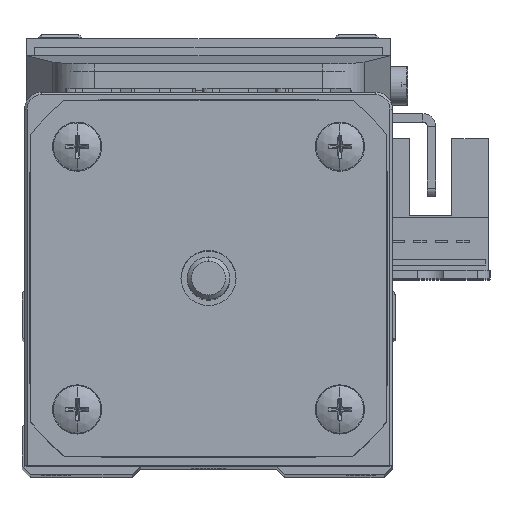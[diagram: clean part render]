
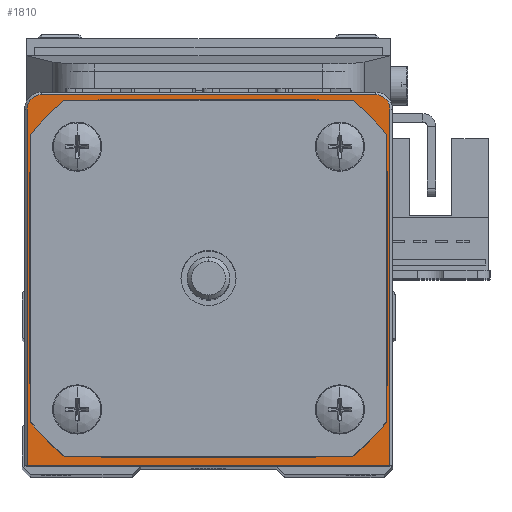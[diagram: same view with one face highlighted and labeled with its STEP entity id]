
A CAD part, top view. The second image highlights one B-rep face of the part: STEP entity #1810.
In plain terms, the highlighted planar face has unit normal (0, 0, 1).
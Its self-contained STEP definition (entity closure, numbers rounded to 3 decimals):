
#481 = EDGE_CURVE ( 'NONE', #44099, #24421, #55169, .T. ) ;
#1602 = LINE ( 'NONE', #24798, #35063 ) ;
#1810 = ADVANCED_FACE ( 'NONE', ( #56805, #4753 ), #27922, .T. ) ;
#4529 = EDGE_CURVE ( 'NONE', #18620, #44576, #59498, .T. ) ;
#4753 = FACE_BOUND ( 'NONE', #63405, .T. ) ;
#5573 = EDGE_LOOP ( 'NONE', ( #16855, #52518, #60729, #59995, #59426, #49771 ) ) ;
#6468 = CARTESIAN_POINT ( 'NONE',  ( -21.4, -22., 26.5 ) ) ;
#6722 = DIRECTION ( 'NONE',  ( 0., 0., 1. ) ) ;
#7415 = VECTOR ( 'NONE', #30609, 1000. ) ;
#7447 = CARTESIAN_POINT ( 'NONE',  ( 21.4, 20., 26.5 ) ) ;
#8779 = CARTESIAN_POINT ( 'NONE',  ( 10., 0., 26.5 ) ) ;
#10159 = CIRCLE ( 'NONE', #62328, 1.7 ) ;
#11736 = CARTESIAN_POINT ( 'NONE',  ( 21.4, 20., 26.5 ) ) ;
#11767 = VERTEX_POINT ( 'NONE', #26011 ) ;
#12199 = DIRECTION ( 'NONE',  ( 1., 0., 0. ) ) ;
#13867 = DIRECTION ( 'NONE',  ( 0., -1., 0. ) ) ;
#14108 = CARTESIAN_POINT ( 'NONE',  ( -19.7, 21.7, 26.5 ) ) ;
#15977 = VERTEX_POINT ( 'NONE', #48340 ) ;
#16818 = DIRECTION ( 'NONE',  ( 1., 0., 0. ) ) ;
#16855 = ORIENTED_EDGE ( 'NONE', *, *, #29542, .T. ) ;
#16971 = ORIENTED_EDGE ( 'NONE', *, *, #51911, .F. ) ;
#18620 = VERTEX_POINT ( 'NONE', #30964 ) ;
#19639 = EDGE_CURVE ( 'NONE', #44576, #15977, #61272, .T. ) ;
#21521 = CARTESIAN_POINT ( 'NONE',  ( -21.7, -22., 26.5 ) ) ;
#22213 = DIRECTION ( 'NONE',  ( 1., 0., 0. ) ) ;
#22397 = AXIS2_PLACEMENT_3D ( 'NONE', #44658, #67813, #16818 ) ;
#24421 = VERTEX_POINT ( 'NONE', #8779 ) ;
#24798 = CARTESIAN_POINT ( 'NONE',  ( -19.7, 21.7, 26.5 ) ) ;
#25929 = VECTOR ( 'NONE', #13867, 1000. ) ;
#26011 = CARTESIAN_POINT ( 'NONE',  ( -21.4, 20., 26.5 ) ) ;
#26195 = CARTESIAN_POINT ( 'NONE',  ( 19.7, 20., 26.5 ) ) ;
#27922 = PLANE ( 'NONE',  #56557 ) ;
#28502 = AXIS2_PLACEMENT_3D ( 'NONE', #26195, #49378, #72557 ) ;
#29542 = EDGE_CURVE ( 'NONE', #48856, #18620, #73565, .T. ) ;
#29886 = DIRECTION ( 'NONE',  ( 1., 0., 0. ) ) ;
#30609 = DIRECTION ( 'NONE',  ( 0., 1., 0. ) ) ;
#30964 = CARTESIAN_POINT ( 'NONE',  ( 21.4, -22., 26.5 ) ) ;
#32505 = CIRCLE ( 'NONE', #74966, 10. ) ;
#32507 = VERTEX_POINT ( 'NONE', #14108 ) ;
#35063 = VECTOR ( 'NONE', #47987, 1000. ) ;
#41098 = CARTESIAN_POINT ( 'NONE',  ( 0., 0., 26.5 ) ) ;
#42761 = LINE ( 'NONE', #65909, #25929 ) ;
#44099 = VERTEX_POINT ( 'NONE', #55840 ) ;
#44576 = VERTEX_POINT ( 'NONE', #11736 ) ;
#44658 = CARTESIAN_POINT ( 'NONE',  ( 0., 0., 26.5 ) ) ;
#44710 = DIRECTION ( 'NONE',  ( 1., 0., 0. ) ) ;
#47648 = EDGE_CURVE ( 'NONE', #32507, #11767, #10159, .T. ) ;
#47987 = DIRECTION ( 'NONE',  ( -1., 0., 0. ) ) ;
#48340 = CARTESIAN_POINT ( 'NONE',  ( 19.7, 21.7, 26.5 ) ) ;
#48856 = VERTEX_POINT ( 'NONE', #6468 ) ;
#49378 = DIRECTION ( 'NONE',  ( 0., 0., 1. ) ) ;
#49771 = ORIENTED_EDGE ( 'NONE', *, *, #63749, .T. ) ;
#51098 = CARTESIAN_POINT ( 'NONE',  ( 0., 0., 26.5 ) ) ;
#51506 = EDGE_CURVE ( 'NONE', #15977, #32507, #1602, .T. ) ;
#51911 = EDGE_CURVE ( 'NONE', #24421, #44099, #32505, .T. ) ;
#52518 = ORIENTED_EDGE ( 'NONE', *, *, #4529, .T. ) ;
#55169 = CIRCLE ( 'NONE', #22397, 10. ) ;
#55840 = CARTESIAN_POINT ( 'NONE',  ( -10., 0., 26.5 ) ) ;
#56557 = AXIS2_PLACEMENT_3D ( 'NONE', #51098, #74271, #22213 ) ;
#56805 = FACE_OUTER_BOUND ( 'NONE', #5573, .T. ) ;
#58764 = CARTESIAN_POINT ( 'NONE',  ( -19.7, 20., 26.5 ) ) ;
#59426 = ORIENTED_EDGE ( 'NONE', *, *, #47648, .T. ) ;
#59498 = LINE ( 'NONE', #7447, #7415 ) ;
#59995 = ORIENTED_EDGE ( 'NONE', *, *, #51506, .T. ) ;
#60359 = ORIENTED_EDGE ( 'NONE', *, *, #481, .F. ) ;
#60729 = ORIENTED_EDGE ( 'NONE', *, *, #19639, .T. ) ;
#61272 = CIRCLE ( 'NONE', #28502, 1.7 ) ;
#62328 = AXIS2_PLACEMENT_3D ( 'NONE', #58764, #6722, #29886 ) ;
#63405 = EDGE_LOOP ( 'NONE', ( #60359, #16971 ) ) ;
#63749 = EDGE_CURVE ( 'NONE', #11767, #48856, #42761, .T. ) ;
#64241 = DIRECTION ( 'NONE',  ( 0., 0., 1. ) ) ;
#65909 = CARTESIAN_POINT ( 'NONE',  ( -21.4, -22., 26.5 ) ) ;
#67580 = VECTOR ( 'NONE', #44710, 1000. ) ;
#67813 = DIRECTION ( 'NONE',  ( 0., 0., 1. ) ) ;
#72557 = DIRECTION ( 'NONE',  ( 1., 0., 0. ) ) ;
#73565 = LINE ( 'NONE', #21521, #67580 ) ;
#74271 = DIRECTION ( 'NONE',  ( 0., 0., 1. ) ) ;
#74966 = AXIS2_PLACEMENT_3D ( 'NONE', #41098, #64241, #12199 ) ;
